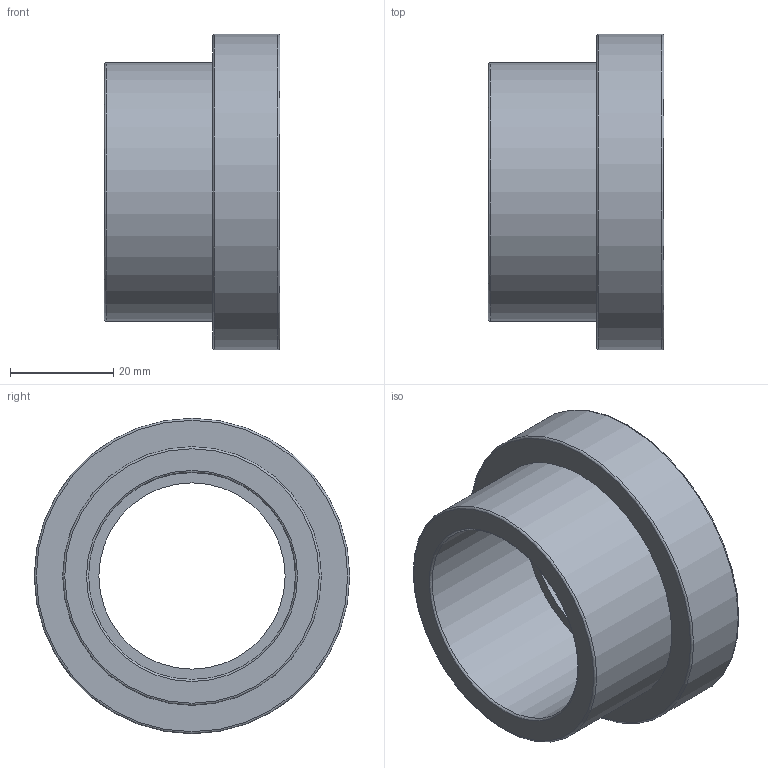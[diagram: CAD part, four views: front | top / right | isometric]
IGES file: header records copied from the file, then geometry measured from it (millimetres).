
Global section: file name: 055000040.ipt; native system: Autodesk Inventor 2015; preprocessor: unknown; author: KIM; date: 20171207.165707; units: millimetre
Bounding box: 34 x 61 x 61 mm (x, y, z)
Volume: 36154.8 mm3; surface area: 14721.2 mm2
Topology: 1 solids, 1 shells, 21 faces, 60 edges, 45 vertices
Faces by surface type: revolution 12, plane 6, cylinder 3
Full cylindrical faces by diameter (mm): 44.75 x1, 50 x1, 61 x1
